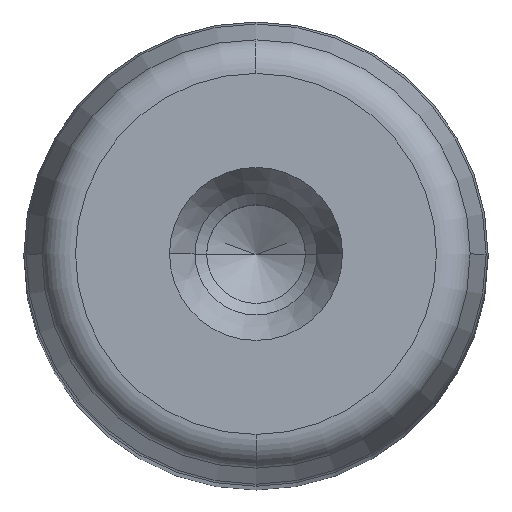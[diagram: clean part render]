
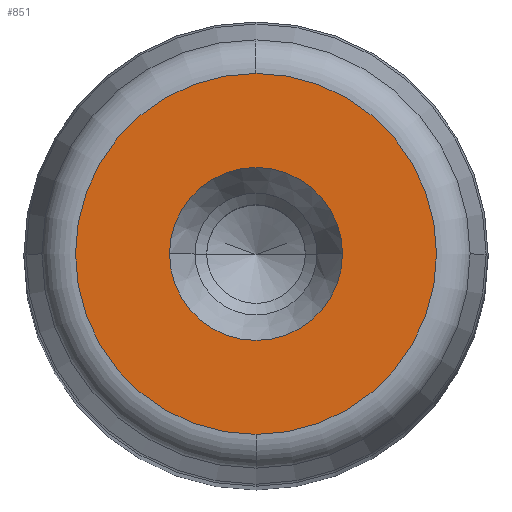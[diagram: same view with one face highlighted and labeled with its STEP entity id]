
A CAD part, top view. The second image highlights one B-rep face of the part: STEP entity #851.
In plain terms, the highlighted planar face has unit normal (0, 0, 1) as drawn and (0, 1, 0) by its records, which use the part's own axes.
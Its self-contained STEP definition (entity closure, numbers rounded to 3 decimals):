
#281=CARTESIAN_POINT('',(7.45,200.0,0.0));
#282=VERTEX_POINT('',#281);
#289=CARTESIAN_POINT('',(-7.45,200.0,0.));
#290=VERTEX_POINT('',#289);
#291=CARTESIAN_POINT('',(0.0,200.0,0.0));
#292=DIRECTION('',(0.0,1.0,0.0));
#293=DIRECTION('',(1.0,0.0,0.0));
#294=AXIS2_PLACEMENT_3D('',#291,#292,#293);
#295=CIRCLE('',#294,7.45);
#296=EDGE_CURVE('',#282,#290,#295,.T.);
#313=CARTESIAN_POINT('',(0.0,200.0,15.554));
#314=VERTEX_POINT('',#313);
#324=CARTESIAN_POINT('',(0.,200.0,-15.554));
#325=VERTEX_POINT('',#324);
#326=CARTESIAN_POINT('',(0.0,200.0,0.0));
#327=DIRECTION('',(0.0,1.0,0.0));
#328=DIRECTION('',(1.0,0.0,0.0));
#329=AXIS2_PLACEMENT_3D('',#326,#327,#328);
#330=CIRCLE('',#329,15.554);
#331=EDGE_CURVE('',#325,#314,#330,.T.);
#812=CARTESIAN_POINT('',(15.554,200.0,0.0));
#813=VERTEX_POINT('',#812);
#814=CARTESIAN_POINT('',(0.0,200.0,0.0));
#815=DIRECTION('',(0.0,1.0,0.0));
#816=DIRECTION('',(1.0,0.0,0.0));
#817=AXIS2_PLACEMENT_3D('',#814,#815,#816);
#818=CIRCLE('',#817,15.554);
#819=EDGE_CURVE('',#813,#325,#818,.T.);
#821=CARTESIAN_POINT('',(0.0,200.0,0.0));
#822=DIRECTION('',(0.0,1.0,0.0));
#823=DIRECTION('',(1.0,0.0,0.0));
#824=AXIS2_PLACEMENT_3D('',#821,#822,#823);
#825=CIRCLE('',#824,15.554);
#826=EDGE_CURVE('',#314,#813,#825,.T.);
#831=CARTESIAN_POINT('',(-17.11,200.0,-17.11));
#832=DIRECTION('',(0.0,1.0,0.0));
#833=DIRECTION('',(0.0,0.0,1.0));
#834=AXIS2_PLACEMENT_3D('',#831,#832,#833);
#835=PLANE('',#834);
#836=ORIENTED_EDGE('',*,*,#819,.T.);
#837=ORIENTED_EDGE('',*,*,#331,.T.);
#838=ORIENTED_EDGE('',*,*,#826,.T.);
#839=EDGE_LOOP('',(#836,#837,#838));
#840=FACE_OUTER_BOUND('',#839,.T.);
#841=ORIENTED_EDGE('',*,*,#296,.F.);
#842=CARTESIAN_POINT('',(0.0,200.0,0.0));
#843=DIRECTION('',(0.0,1.0,0.0));
#844=DIRECTION('',(1.0,0.0,0.0));
#845=AXIS2_PLACEMENT_3D('',#842,#843,#844);
#846=CIRCLE('',#845,7.45);
#847=EDGE_CURVE('',#290,#282,#846,.T.);
#848=ORIENTED_EDGE('',*,*,#847,.F.);
#849=EDGE_LOOP('',(#841,#848));
#850=FACE_BOUND('',#849,.T.);
#851=ADVANCED_FACE('',(#840,#850),#835,.T.);
